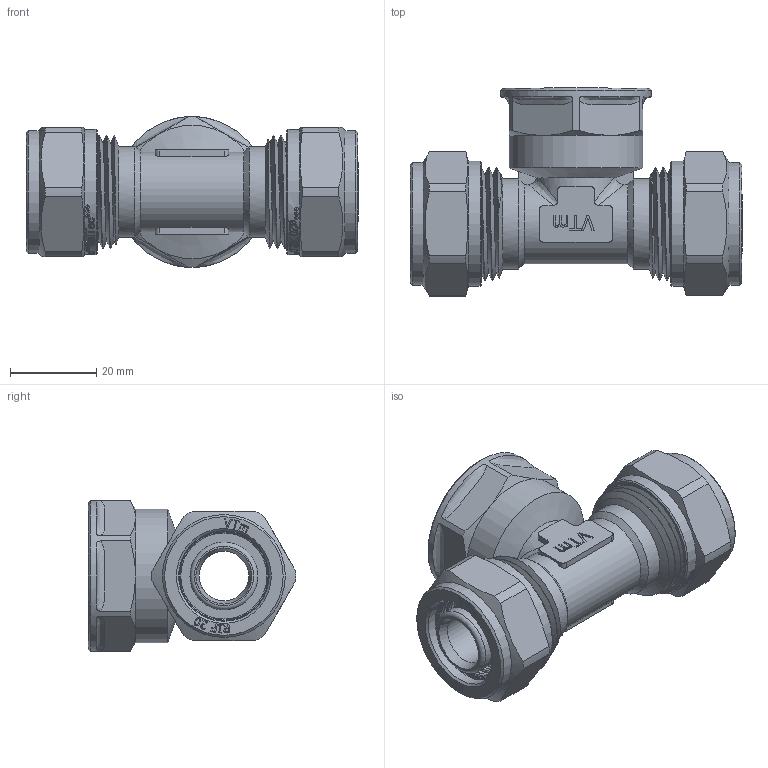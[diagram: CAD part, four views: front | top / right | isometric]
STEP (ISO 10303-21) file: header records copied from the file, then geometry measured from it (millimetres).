
FILE_DESCRIPTION(/* description */ (''),/* implementation_level */ '2;1');
FILE_NAME(/* name */ 'E:\Артём\00000\Работа удаленка\Обжимные фитинги\VTm.332.N.200520.stp',/* time_stamp */ '2020-07-08T13:59:25+03:00',/* author */ ('BeN_GaN'),/* organization */ (''),/* preprocessor_version */ 'ST-DEVELOPER v18',/* originating_system */ 'Autodesk Inventor 2020',/* authorisation */ '');
FILE_SCHEMA (('AUTOMOTIVE_DESIGN { 1 0 10303 214 3 1 1 }'));
Length unit declared in the file: millimetre
Products named in the file (1): VTm.332.N.200520
Bounding box: 77 x 48.22 x 35 mm (x, y, z)
Volume: 31313.5 mm3; surface area: 25095.9 mm2
Topology: 1 solids, 3 shells, 1411 faces, 3980 edges, 2678 vertices
Faces by surface type: bspline 728, plane 410, cylinder 188, torus 44, cone 41
Full cylindrical faces by diameter (mm): 11.5 x1, 13.4 x4, 15 x1, 15.75 x8, 19.986 x8, 20.2 x2, 20.728 x10, 21 x4, 22.8 x6, 23.201 x2, 24.1 x6, 24.2 x4, 26.4 x4, 27.7 x7, 28.5 x2, 29 x2, 31 x1, 35 x1
Entity records: 63977 total; most frequent: CARTESIAN_POINT 32138, ORIENTED_EDGE 7958, DIRECTION 4346, EDGE_CURVE 3979, VERTEX_POINT 2681, LINE 1694, VECTOR 1694, B_SPLINE_CURVE_WITH_KNOTS 1596
